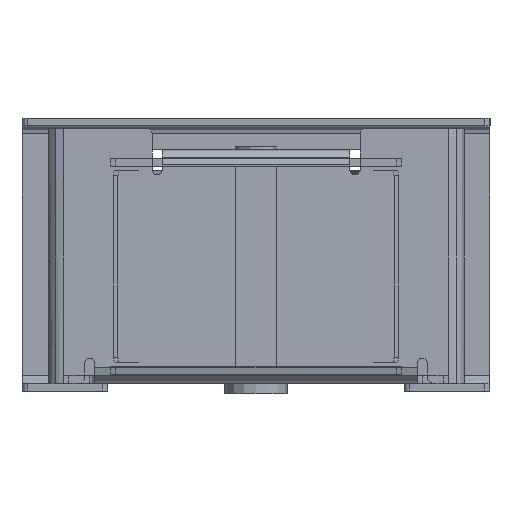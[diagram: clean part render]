
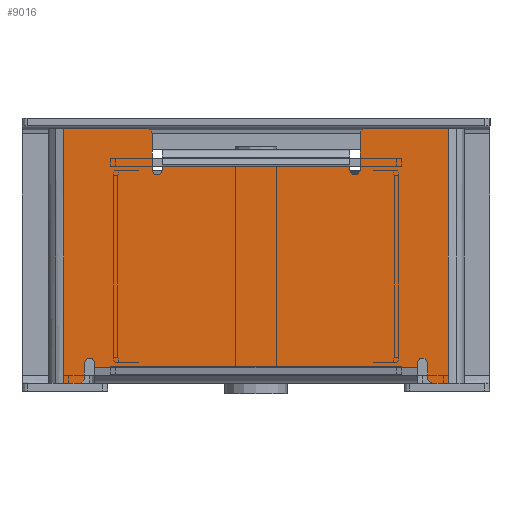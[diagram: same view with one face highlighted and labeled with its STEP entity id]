
A CAD part, front view. The second image highlights one B-rep face of the part: STEP entity #9016.
In plain terms, the highlighted planar face has unit normal (0, -1, 0).
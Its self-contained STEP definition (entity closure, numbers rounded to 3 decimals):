
#382=CIRCLE('',#9705,1.);
#383=CIRCLE('',#9706,1.);
#384=CIRCLE('',#9707,1.);
#385=CIRCLE('',#9708,1.);
#386=CIRCLE('',#9709,1.);
#387=CIRCLE('',#9710,1.);
#388=CIRCLE('',#9711,1.);
#389=CIRCLE('',#9712,1.);
#801=FACE_OUTER_BOUND('',#1293,.T.);
#1293=EDGE_LOOP('',(#7093,#7094,#7095,#7096,#7097,#7098,#7099,#7100,#7101,
#7102,#7103,#7104,#7105,#7106,#7107,#7108,#7109,#7110,#7111,#7112,#7113,
#7114,#7115,#7116));
#2124=LINE('',#14150,#3079);
#2159=LINE('',#14264,#3114);
#2160=LINE('',#14266,#3115);
#2161=LINE('',#14270,#3116);
#2162=LINE('',#14274,#3117);
#2163=LINE('',#14276,#3118);
#2164=LINE('',#14278,#3119);
#2165=LINE('',#14282,#3120);
#2166=LINE('',#14286,#3121);
#2167=LINE('',#14288,#3122);
#2168=LINE('',#14290,#3123);
#2169=LINE('',#14294,#3124);
#2170=LINE('',#14298,#3125);
#2171=LINE('',#14300,#3126);
#2172=LINE('',#14302,#3127);
#2173=LINE('',#14305,#3128);
#3079=VECTOR('',#11601,10.);
#3114=VECTOR('',#11688,10.);
#3115=VECTOR('',#11689,10.);
#3116=VECTOR('',#11692,10.);
#3117=VECTOR('',#11695,10.);
#3118=VECTOR('',#11696,10.);
#3119=VECTOR('',#11697,10.);
#3120=VECTOR('',#11700,10.);
#3121=VECTOR('',#11703,10.);
#3122=VECTOR('',#11704,10.);
#3123=VECTOR('',#11705,10.);
#3124=VECTOR('',#11708,10.);
#3125=VECTOR('',#11711,10.);
#3126=VECTOR('',#11712,10.);
#3127=VECTOR('',#11713,10.);
#3128=VECTOR('',#11716,10.);
#3877=VERTEX_POINT('',#14147);
#3878=VERTEX_POINT('',#14149);
#3930=VERTEX_POINT('',#14261);
#3931=VERTEX_POINT('',#14263);
#3932=VERTEX_POINT('',#14265);
#3933=VERTEX_POINT('',#14267);
#3934=VERTEX_POINT('',#14269);
#3935=VERTEX_POINT('',#14271);
#3936=VERTEX_POINT('',#14273);
#3937=VERTEX_POINT('',#14275);
#3938=VERTEX_POINT('',#14277);
#3939=VERTEX_POINT('',#14279);
#3940=VERTEX_POINT('',#14281);
#3941=VERTEX_POINT('',#14283);
#3942=VERTEX_POINT('',#14285);
#3943=VERTEX_POINT('',#14287);
#3944=VERTEX_POINT('',#14289);
#3945=VERTEX_POINT('',#14291);
#3946=VERTEX_POINT('',#14293);
#3947=VERTEX_POINT('',#14295);
#3948=VERTEX_POINT('',#14297);
#3949=VERTEX_POINT('',#14299);
#3950=VERTEX_POINT('',#14301);
#3951=VERTEX_POINT('',#14303);
#4960=EDGE_CURVE('',#3877,#3878,#2124,.T.);
#5014=EDGE_CURVE('',#3878,#3930,#382,.T.);
#5015=EDGE_CURVE('',#3877,#3931,#2159,.T.);
#5016=EDGE_CURVE('',#3932,#3931,#2160,.T.);
#5017=EDGE_CURVE('',#3933,#3932,#383,.T.);
#5018=EDGE_CURVE('',#3933,#3934,#2161,.T.);
#5019=EDGE_CURVE('',#3935,#3934,#384,.T.);
#5020=EDGE_CURVE('',#3935,#3936,#2162,.T.);
#5021=EDGE_CURVE('',#3936,#3937,#2163,.T.);
#5022=EDGE_CURVE('',#3937,#3938,#2164,.T.);
#5023=EDGE_CURVE('',#3939,#3938,#385,.T.);
#5024=EDGE_CURVE('',#3939,#3940,#2165,.T.);
#5025=EDGE_CURVE('',#3941,#3940,#386,.T.);
#5026=EDGE_CURVE('',#3942,#3941,#2166,.T.);
#5027=EDGE_CURVE('',#3942,#3943,#2167,.T.);
#5028=EDGE_CURVE('',#3944,#3943,#2168,.T.);
#5029=EDGE_CURVE('',#3945,#3944,#387,.T.);
#5030=EDGE_CURVE('',#3945,#3946,#2169,.T.);
#5031=EDGE_CURVE('',#3947,#3946,#388,.T.);
#5032=EDGE_CURVE('',#3947,#3948,#2170,.T.);
#5033=EDGE_CURVE('',#3948,#3949,#2171,.T.);
#5034=EDGE_CURVE('',#3949,#3950,#2172,.T.);
#5035=EDGE_CURVE('',#3951,#3950,#389,.T.);
#5036=EDGE_CURVE('',#3951,#3930,#2173,.T.);
#7093=ORIENTED_EDGE('',*,*,#5014,.F.);
#7094=ORIENTED_EDGE('',*,*,#4960,.F.);
#7095=ORIENTED_EDGE('',*,*,#5015,.T.);
#7096=ORIENTED_EDGE('',*,*,#5016,.F.);
#7097=ORIENTED_EDGE('',*,*,#5017,.F.);
#7098=ORIENTED_EDGE('',*,*,#5018,.T.);
#7099=ORIENTED_EDGE('',*,*,#5019,.F.);
#7100=ORIENTED_EDGE('',*,*,#5020,.T.);
#7101=ORIENTED_EDGE('',*,*,#5021,.T.);
#7102=ORIENTED_EDGE('',*,*,#5022,.T.);
#7103=ORIENTED_EDGE('',*,*,#5023,.F.);
#7104=ORIENTED_EDGE('',*,*,#5024,.T.);
#7105=ORIENTED_EDGE('',*,*,#5025,.F.);
#7106=ORIENTED_EDGE('',*,*,#5026,.F.);
#7107=ORIENTED_EDGE('',*,*,#5027,.T.);
#7108=ORIENTED_EDGE('',*,*,#5028,.F.);
#7109=ORIENTED_EDGE('',*,*,#5029,.F.);
#7110=ORIENTED_EDGE('',*,*,#5030,.T.);
#7111=ORIENTED_EDGE('',*,*,#5031,.F.);
#7112=ORIENTED_EDGE('',*,*,#5032,.T.);
#7113=ORIENTED_EDGE('',*,*,#5033,.T.);
#7114=ORIENTED_EDGE('',*,*,#5034,.T.);
#7115=ORIENTED_EDGE('',*,*,#5035,.F.);
#7116=ORIENTED_EDGE('',*,*,#5036,.T.);
#8111=PLANE('',#9704);
#9016=ADVANCED_FACE('',(#801),#8111,.T.);
#9704=AXIS2_PLACEMENT_3D('',#14260,#11684,#11685);
#9705=AXIS2_PLACEMENT_3D('',#14262,#11686,#11687);
#9706=AXIS2_PLACEMENT_3D('',#14268,#11690,#11691);
#9707=AXIS2_PLACEMENT_3D('',#14272,#11693,#11694);
#9708=AXIS2_PLACEMENT_3D('',#14280,#11698,#11699);
#9709=AXIS2_PLACEMENT_3D('',#14284,#11701,#11702);
#9710=AXIS2_PLACEMENT_3D('',#14292,#11706,#11707);
#9711=AXIS2_PLACEMENT_3D('',#14296,#11709,#11710);
#9712=AXIS2_PLACEMENT_3D('',#14304,#11714,#11715);
#11601=DIRECTION('',(-1.,0.,0.));
#11684=DIRECTION('center_axis',(0.,-1.,0.));
#11685=DIRECTION('ref_axis',(0.,0.,
1.));
#11686=DIRECTION('center_axis',(0.,1.,0.));
#11687=DIRECTION('ref_axis',(-0.707,0.,-0.707));
#11688=DIRECTION('',(0.,0.,1.));
#11689=DIRECTION('',(1.,0.,0.));
#11690=DIRECTION('center_axis',(0.,1.,0.));
#11691=DIRECTION('ref_axis',(-0.707,0.,0.707));
#11692=DIRECTION('',(0.,0.,-1.));
#11693=DIRECTION('center_axis',(0.,-1.,0.));
#11694=DIRECTION('ref_axis',(-0.707,0.,-0.707));
#11695=DIRECTION('',(0.,0.,1.));
#11696=DIRECTION('',(-1.,0.,0.));
#11697=DIRECTION('',(0.,0.,-1.));
#11698=DIRECTION('center_axis',(0.,-1.,0.));
#11699=DIRECTION('ref_axis',(-0.707,0.,-0.707));
#11700=DIRECTION('',(0.,0.,1.));
#11701=DIRECTION('center_axis',(0.,1.,0.));
#11702=DIRECTION('ref_axis',(0.707,0.,0.707));
#11703=DIRECTION('',(1.,0.,0.));
#11704=DIRECTION('',(0.,0.,-1.));
#11705=DIRECTION('',(-1.,0.,0.));
#11706=DIRECTION('center_axis',(0.,1.,0.));
#11707=DIRECTION('ref_axis',(0.707,0.,-0.707));
#11708=DIRECTION('',(0.,0.,1.));
#11709=DIRECTION('center_axis',(0.,-1.,0.));
#11710=DIRECTION('ref_axis',(0.707,0.,0.707));
#11711=DIRECTION('',(0.,0.,-1.));
#11712=DIRECTION('',(1.,0.,0.));
#11713=DIRECTION('',(0.,0.,1.));
#11714=DIRECTION('center_axis',(0.,-1.,0.));
#11715=DIRECTION('ref_axis',(0.707,0.,0.707));
#11716=DIRECTION('',(0.,0.,-1.));
#14147=CARTESIAN_POINT('',(37.,-6311.5,-24.5));
#14149=CARTESIAN_POINT('',(34.,-6311.5,-24.5));
#14150=CARTESIAN_POINT('',(-40.,-6311.5,-24.5));
#14260=CARTESIAN_POINT('Origin',(0.,-6311.5,0.));
#14261=CARTESIAN_POINT('',(33.,-6311.5,-23.5));
#14262=CARTESIAN_POINT('Origin',(34.,-6311.5,-23.5));
#14263=CARTESIAN_POINT('',(37.,-6311.5,24.5));
#14264=CARTESIAN_POINT('',(37.,-6311.5,-12.25));
#14265=CARTESIAN_POINT('',(21.,-6311.5,24.5));
#14266=CARTESIAN_POINT('',(40.,-6311.5,24.5));
#14267=CARTESIAN_POINT('',(20.,-6311.5,23.5));
#14268=CARTESIAN_POINT('Origin',(21.,-6311.5,23.5));
#14269=CARTESIAN_POINT('',(20.,-6311.5,16.5));
#14270=CARTESIAN_POINT('',(20.,-6311.5,7.75));
#14271=CARTESIAN_POINT('',(18.,-6311.5,16.5));
#14272=CARTESIAN_POINT('Origin',(19.,-6311.5,16.5));
#14273=CARTESIAN_POINT('',(18.,-6311.5,17.5));
#14274=CARTESIAN_POINT('',(18.,-6311.5,10.25));
#14275=CARTESIAN_POINT('',(-18.,-6311.5,17.5));
#14276=CARTESIAN_POINT('',(9.,-6311.5,17.5));
#14277=CARTESIAN_POINT('',(-18.,-6311.5,16.5));
#14278=CARTESIAN_POINT('',(-18.,-6311.5,7.75));
#14279=CARTESIAN_POINT('',(-20.,-6311.5,16.5));
#14280=CARTESIAN_POINT('Origin',(-19.,-6311.5,16.5));
#14281=CARTESIAN_POINT('',(-20.,-6311.5,23.5));
#14282=CARTESIAN_POINT('',(-20.,-6311.5,12.25));
#14283=CARTESIAN_POINT('',(-21.,-6311.5,24.5));
#14284=CARTESIAN_POINT('Origin',(-21.,-6311.5,23.5));
#14285=CARTESIAN_POINT('',(-37.,-6311.5,24.5));
#14286=CARTESIAN_POINT('',(40.,-6311.5,24.5));
#14287=CARTESIAN_POINT('',(-37.,-6311.5,-24.5));
#14288=CARTESIAN_POINT('',(-37.,-6311.5,12.25));
#14289=CARTESIAN_POINT('',(-34.,-6311.5,-24.5));
#14290=CARTESIAN_POINT('',(-40.,-6311.5,-24.5));
#14291=CARTESIAN_POINT('',(-33.,-6311.5,-23.5));
#14292=CARTESIAN_POINT('Origin',(-34.,-6311.5,-23.5));
#14293=CARTESIAN_POINT('',(-33.,-6311.5,-20.5));
#14294=CARTESIAN_POINT('',(-33.,-6311.5,-9.75));
#14295=CARTESIAN_POINT('',(-31.,-6311.5,-20.5));
#14296=CARTESIAN_POINT('Origin',(-32.,-6311.5,-20.5));
#14297=CARTESIAN_POINT('',(-31.,-6311.5,-21.5));
#14298=CARTESIAN_POINT('',(-31.,-6311.5,-12.25));
#14299=CARTESIAN_POINT('',(31.,-6311.5,-21.5));
#14300=CARTESIAN_POINT('',(-15.5,-6311.5,-21.5));
#14301=CARTESIAN_POINT('',(31.,-6311.5,-20.5));
#14302=CARTESIAN_POINT('',(31.,-6311.5,-9.75));
#14303=CARTESIAN_POINT('',(33.,-6311.5,-20.5));
#14304=CARTESIAN_POINT('Origin',(32.,-6311.5,-20.5));
#14305=CARTESIAN_POINT('',(33.,-6311.5,-12.25));
